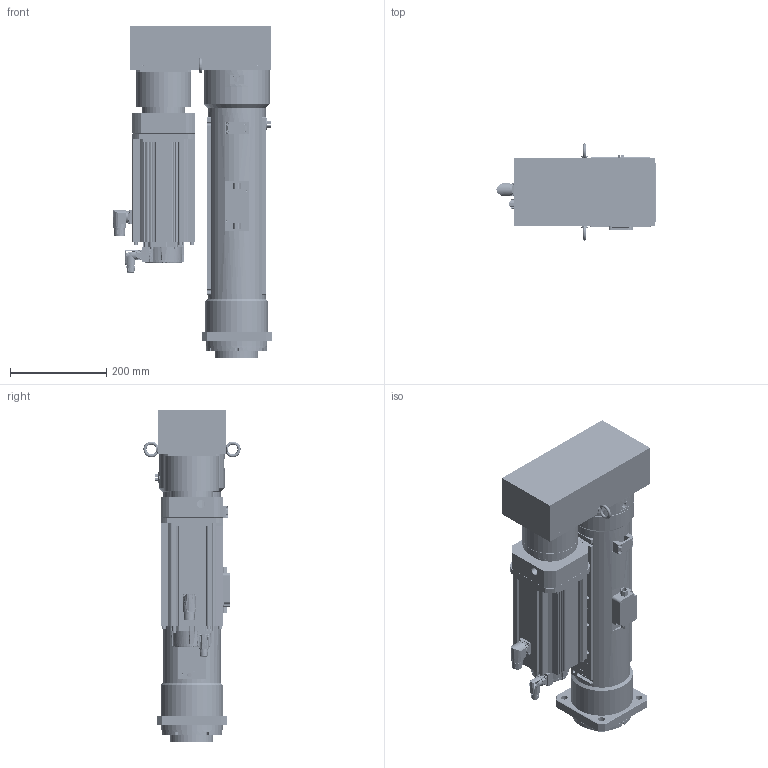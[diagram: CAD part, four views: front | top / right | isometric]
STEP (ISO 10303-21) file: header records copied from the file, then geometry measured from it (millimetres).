
FILE_DESCRIPTION( ('This file contains a STEP AP42 implementation' ,'as created by ZW3D STEP Interface translator.') ,'2;1' );
FILE_NAME( 'OACIS-DC-P060-P070-300-155-A6V400_V20.51.stp' ,'26 423.1735 6', (''), ('ZWCAD Software Co.'), 'Version 1.0', 'ZW3D to STEP translator', '' );
FILE_SCHEMA(('AUTOMOTIVE_DESIGN { 1 0 10303 214 1 1 1 1 }'));
Length unit declared in the file: millimetre
Products named in the file (1): 0
Bounding box: 331 x 202.25 x 691 mm (x, y, z)
Volume: 12851956.1 mm3; surface area: 2049548.7 mm2
Topology: 55 solids, 58 shells, 3886 faces, 9962 edges, 6386 vertices
Faces by surface type: cylinder 1869, plane 1470, cone 378, torus 110, bspline 47, sphere 12
Full cylindrical faces by diameter (mm): 1.25 x12, 1.567 x4, 2 x1, 2.232 x6, 2.459 x1, 2.8 x1, 3.242 x3, 3.3 x83, 4.2 x4, 4.3 x26, 4.5 x14, 4.917 x20, 5 x1, 5.3 x4, 5.5 x5, 6 x12, 6.647 x6, 6.8 x41, 7 x4, 8 x32, 8.4 x8, 8.5 x4, 9 x26, 9.5 x4, 9.78 x8, 10 x7, 10.104 x4, 10.106 x1, 10.2 x16, 10.5 x4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
Entity records: 134886 total; most frequent: CARTESIAN_POINT 33197, DIRECTION 21752, ORIENTED_EDGE 19654, EDGE_CURVE 9869, AXIS2_PLACEMENT_3D 8587, VERTEX_POINT 6395, CIRCLE 4733, EDGE_LOOP 4578
